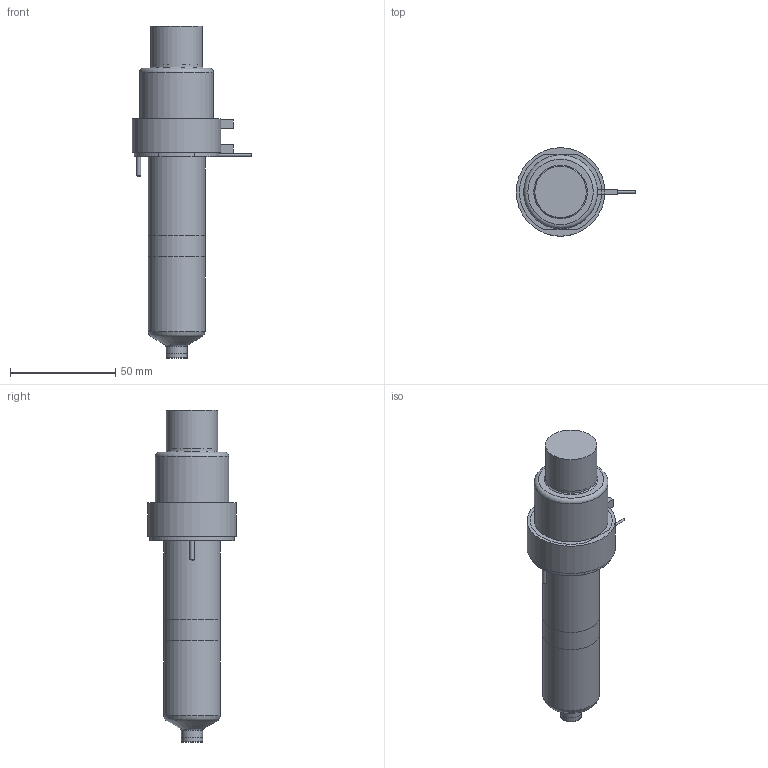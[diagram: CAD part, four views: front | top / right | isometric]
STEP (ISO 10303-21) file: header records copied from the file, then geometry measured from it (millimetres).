
FILE_DESCRIPTION(/* description */ (''),/* implementation_level */ '2;1');
FILE_NAME(/* name */ 'SXTBN-SXIBN-SXOBN13095_250C_b',/* time_stamp */ '2007-01-24T17:16:46+13:00',/* author */ (''),/* organization */ (''),/* preprocessor_version */ 'ST-DEVELOPER v9',/* originating_system */ 'UGS - NX 4.0',/* authorisation */ '');
FILE_SCHEMA (('CONFIG_CONTROL_DESIGN'));
Length unit declared in the file: millimetre
Products named in the file (1): SXTBN-SXIBN-SXOBN13095_250C_b
Bounding box: 56.65 x 42 x 157.51 mm (x, y, z)
Volume: 186926 mm3; surface area: 33353.2 mm2
Topology: 7 solids, 7 shells, 92 faces, 180 edges, 116 vertices
Faces by surface type: plane 45, cylinder 28, torus 9, cone 9, bspline 1
Full cylindrical faces by diameter (mm): 0.9 x1, 1 x3, 2 x2, 6 x1, 9.61 x1, 10.01 x2, 12.6 x1, 22.2 x1, 24 x1, 24.4 x1, 27 x2, 31.8 x1, 35 x1, 40 x1, 42 x1
Entity records: 2250 total; most frequent: CARTESIAN_POINT 438, DIRECTION 382, ORIENTED_EDGE 268, AXIS2_PLACEMENT_3D 166, EDGE_LOOP 142, EDGE_CURVE 134, VERTEX_POINT 107, ADVANCED_FACE 92
